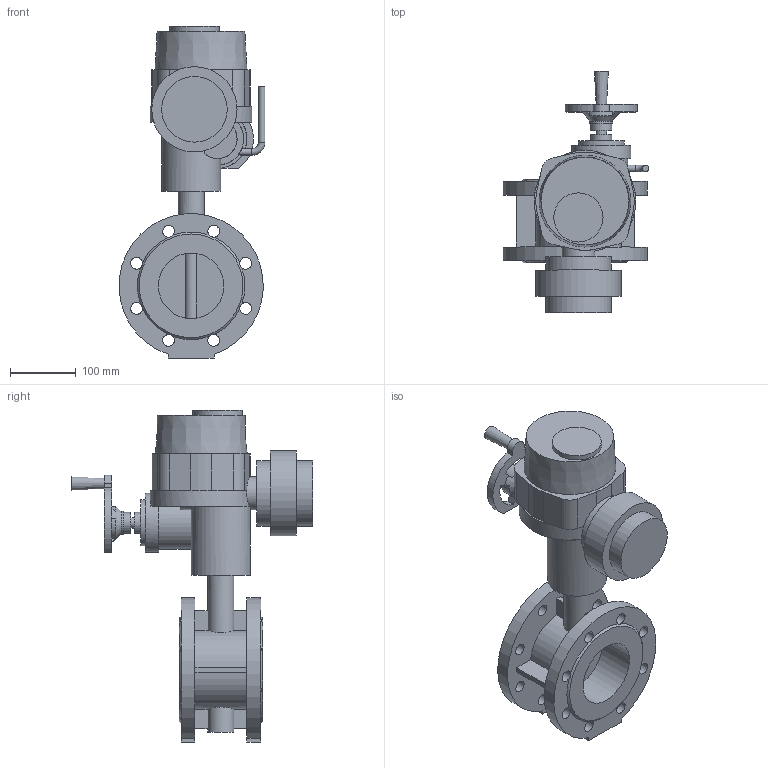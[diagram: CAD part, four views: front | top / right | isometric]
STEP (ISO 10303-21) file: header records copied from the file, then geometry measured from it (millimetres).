
FILE_DESCRIPTION(('STEP AP203'), '1');
FILE_NAME('青蜮铕 021F.Y DN100+菹 QT.A008', '', ('UNSPECIFIED'), ('UNSPECIFIED'), 'ASCON STEP Converter 1.6', 'ASCON Math Kernel', '');
FILE_SCHEMA(('CONFIG_CONTROL_DESIGN'));
Length unit declared in the file: millimetre
Bounding box: 222.35 x 368 x 506 mm (x, y, z)
Volume: 6479274.4 mm3; surface area: 510982.4 mm2
Topology: 1 solids, 1 shells, 173 faces, 474 edges, 312 vertices
Faces by surface type: plane 95, cylinder 72, cone 5, torus 1
Full cylindrical faces by diameter (mm): 6.7 x4, 10 x6, 16 x1, 18 x16, 32 x2, 35 x1, 40 x2, 50 x1, 70 x1, 75 x1, 90 x2, 100 x4, 130 x1
Entity records: 9270 total; most frequent: CARTESIAN_POINT 3453, DIRECTION 937, ORIENTED_EDGE 852, EDGE_CURVE 426, AXIS2_PLACEMENT_3D 377, VERTEX_POINT 312, EDGE_LOOP 268, CIRCLE 203
